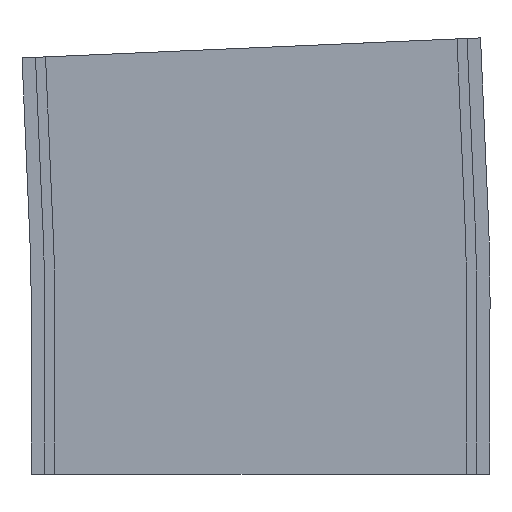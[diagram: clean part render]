
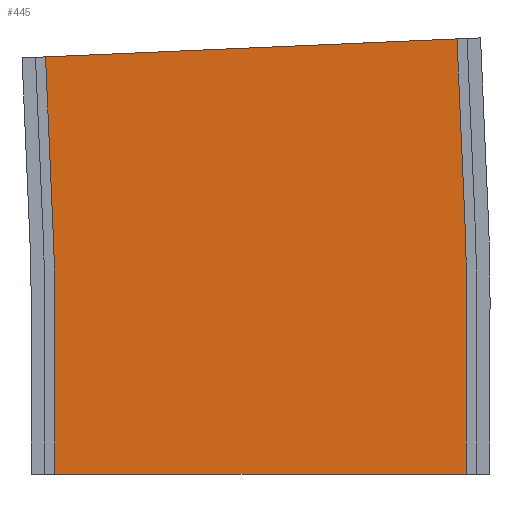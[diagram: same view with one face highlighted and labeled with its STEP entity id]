
A CAD part, left-side view. The second image highlights one B-rep face of the part: STEP entity #445.
In plain terms, the highlighted planar face has unit normal (-1, 0, 0).
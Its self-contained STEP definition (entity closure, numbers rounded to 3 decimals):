
#9 = EDGE_CURVE ( 'NONE', #84, #980, #566, .T. ) ;
#36 = CARTESIAN_POINT ( 'NONE',  ( -249.5, -61.25, 52.5 ) ) ;
#74 = LINE ( 'NONE', #36, #1183 ) ;
#84 = VERTEX_POINT ( 'NONE', #967 ) ;
#96 = FACE_OUTER_BOUND ( 'NONE', #1098, .T. ) ;
#99 = ORIENTED_EDGE ( 'NONE', *, *, #667, .F. ) ;
#135 = VERTEX_POINT ( 'NONE', #1393 ) ;
#153 = CARTESIAN_POINT ( 'NONE',  ( -249.5, -61.25, 0. ) ) ;
#182 = LINE ( 'NONE', #444, #421 ) ;
#207 = CARTESIAN_POINT ( 'NONE',  ( -249.5, 61.25, 0. ) ) ;
#248 = CARTESIAN_POINT ( 'NONE',  ( -249.5, 500., 52.5 ) ) ;
#275 = VERTEX_POINT ( 'NONE', #756 ) ;
#296 = CIRCLE ( 'NONE', #538, 438.75 ) ;
#310 = ORIENTED_EDGE ( 'NONE', *, *, #9, .T. ) ;
#325 = LINE ( 'NONE', #572, #536 ) ;
#371 = DIRECTION ( 'NONE',  ( 0., 0., 1. ) ) ;
#384 = DIRECTION ( 'NONE',  ( 0., -1., 0. ) ) ;
#386 = CARTESIAN_POINT ( 'NONE',  ( -249.5, -61.25, 0. ) ) ;
#395 = ORIENTED_EDGE ( 'NONE', *, *, #960, .F. ) ;
#421 = VECTOR ( 'NONE', #753, 1000. ) ;
#433 = DIRECTION ( 'NONE',  ( 0., 0., 1. ) ) ;
#441 = LINE ( 'NONE', #386, #1281 ) ;
#444 = CARTESIAN_POINT ( 'NONE',  ( -249.5, 61.25, 52.5 ) ) ;
#445 = ADVANCED_FACE ( 'NONE', ( #96 ), #890, .F. ) ;
#482 = CARTESIAN_POINT ( 'NONE',  ( -249.5, 61.668, 71.638 ) ) ;
#486 = EDGE_CURVE ( 'NONE', #764, #1003, #441, .T. ) ;
#494 = ORIENTED_EDGE ( 'NONE', *, *, #486, .T. ) ;
#498 = VECTOR ( 'NONE', #1394, 1000. ) ;
#521 = VERTEX_POINT ( 'NONE', #482 ) ;
#536 = VECTOR ( 'NONE', #568, 1000. ) ;
#538 = AXIS2_PLACEMENT_3D ( 'NONE', #991, #1095, #433 ) ;
#565 = DIRECTION ( 'NONE',  ( 0., 1., 0. ) ) ;
#566 = CIRCLE ( 'NONE', #895, 561.25 ) ;
#568 = DIRECTION ( 'NONE',  ( 0., 0.044, 0.999 ) ) ;
#572 = CARTESIAN_POINT ( 'NONE',  ( -249.5, -60.716, 76.981 ) ) ;
#625 = CARTESIAN_POINT ( 'NONE',  ( -249.5, -58.426, 129.431 ) ) ;
#667 = EDGE_CURVE ( 'NONE', #1039, #135, #1370, .T. ) ;
#706 = VECTOR ( 'NONE', #1233, 1000. ) ;
#723 = ORIENTED_EDGE ( 'NONE', *, *, #1307, .F. ) ;
#739 = ORIENTED_EDGE ( 'NONE', *, *, #1213, .T. ) ;
#753 = DIRECTION ( 'NONE',  ( 0., 0., -1. ) ) ;
#756 = CARTESIAN_POINT ( 'NONE',  ( -249.5, 61.25, 52.5 ) ) ;
#764 = VERTEX_POINT ( 'NONE', #207 ) ;
#771 = DIRECTION ( 'NONE',  ( 1., 0., 0. ) ) ;
#793 = AXIS2_PLACEMENT_3D ( 'NONE', #1217, #771, #565 ) ;
#844 = LINE ( 'NONE', #913, #706 ) ;
#886 = EDGE_CURVE ( 'NONE', #275, #764, #182, .T. ) ;
#890 = PLANE ( 'NONE',  #793 ) ;
#895 = AXIS2_PLACEMENT_3D ( 'NONE', #248, #994, #371 ) ;
#913 = CARTESIAN_POINT ( 'NONE',  ( -249.5, 61.668, 71.638 ) ) ;
#960 = EDGE_CURVE ( 'NONE', #275, #521, #296, .T. ) ;
#967 = CARTESIAN_POINT ( 'NONE',  ( -249.5, -61.25, 52.5 ) ) ;
#980 = VERTEX_POINT ( 'NONE', #1308 ) ;
#991 = CARTESIAN_POINT ( 'NONE',  ( -249.5, 500., 52.5 ) ) ;
#994 = DIRECTION ( 'NONE',  ( -1., 0., 0. ) ) ;
#1003 = VERTEX_POINT ( 'NONE', #153 ) ;
#1039 = VERTEX_POINT ( 'NONE', #1303 ) ;
#1095 = DIRECTION ( 'NONE',  ( -1., 0., 0. ) ) ;
#1098 = EDGE_LOOP ( 'NONE', ( #494, #723, #310, #739, #99, #1167, #395, #1126 ) ) ;
#1126 = ORIENTED_EDGE ( 'NONE', *, *, #886, .T. ) ;
#1167 = ORIENTED_EDGE ( 'NONE', *, *, #1282, .F. ) ;
#1183 = VECTOR ( 'NONE', #1211, 1000. ) ;
#1211 = DIRECTION ( 'NONE',  ( 0., 0., -1. ) ) ;
#1213 = EDGE_CURVE ( 'NONE', #980, #135, #325, .T. ) ;
#1217 = CARTESIAN_POINT ( 'NONE',  ( -249.5, -61.25, 52.5 ) ) ;
#1233 = DIRECTION ( 'NONE',  ( 0., 0.044, 0.999 ) ) ;
#1281 = VECTOR ( 'NONE', #384, 1000. ) ;
#1282 = EDGE_CURVE ( 'NONE', #521, #1039, #844, .T. ) ;
#1303 = CARTESIAN_POINT ( 'NONE',  ( -249.5, 63.958, 124.088 ) ) ;
#1307 = EDGE_CURVE ( 'NONE', #84, #1003, #74, .T. ) ;
#1308 = CARTESIAN_POINT ( 'NONE',  ( -249.5, -60.716, 76.981 ) ) ;
#1370 = LINE ( 'NONE', #625, #498 ) ;
#1393 = CARTESIAN_POINT ( 'NONE',  ( -249.5, -58.426, 129.431 ) ) ;
#1394 = DIRECTION ( 'NONE',  ( 0., -0.999, 0.044 ) ) ;
